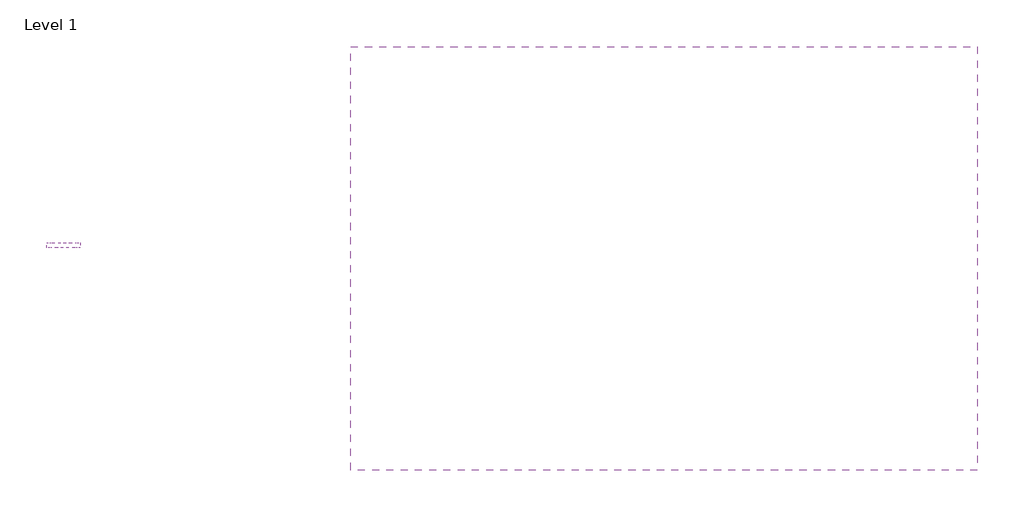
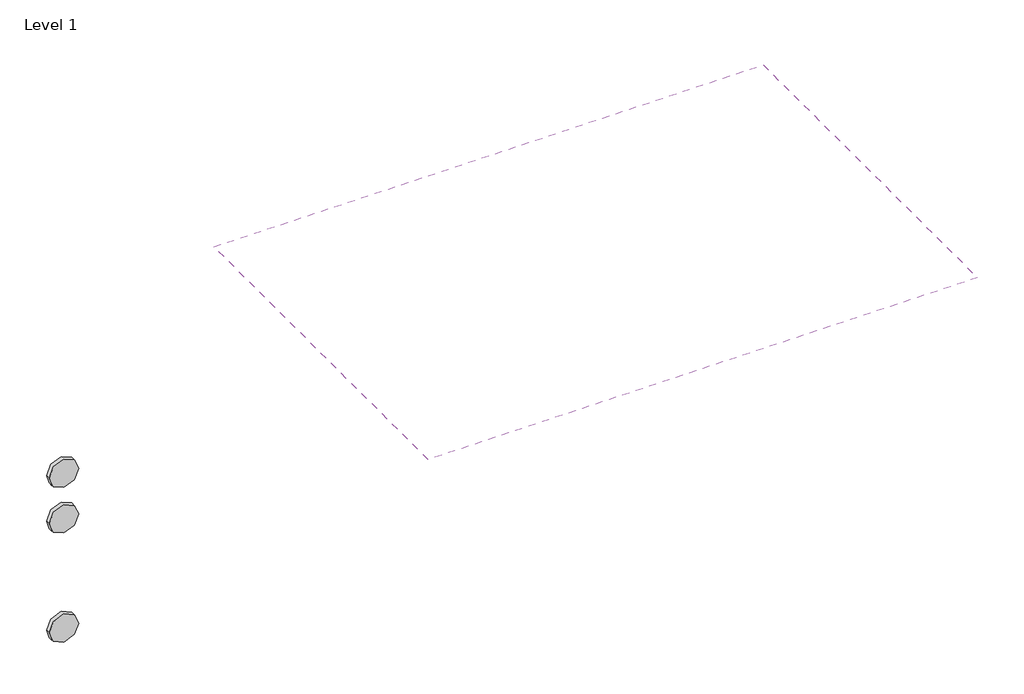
# One storey, incomplete: 3 proxies, 1 covering.
"""IFC4 building model written with IfcOpenShell, lengths in millimetres."""

from ifc_helpers import new_model, si_unit, frame, origin, place, context, project, spatial, polyline, outline, extrude, transform, mapped, element, save
from components import materialmodel_materialmodel_6280714f

model = new_model("IFC4")

# Units and contexts
model_context = context("Model", 3, world=origin())
ifc_project = project(units=[si_unit("LENGTHUNIT", "METRE", prefix="MILLI")], contexts=[model_context])

# Site, building, storey
site = spatial("IfcSite", under=ifc_project)
building = spatial("IfcBuilding", under=site)
storey = spatial("IfcBuildingStorey", under=building, Name="Level 1", Elevation=0.0)

# Proxies
placement = place(None, origin())
materialmodel_materialmodel_shape = materialmodel_materialmodel_6280714f(model_context)
element("IfcBuildingElementProxy", 1, Name="MaterialModel : MaterialModel", ObjectType="MaterialModel : MaterialModel", at=placement, inside=storey, context=model_context, shape_type="MappedRepresentation", body=[
    mapped(materialmodel_materialmodel_shape, transform((-14999.2264414, 6097.5863071, 1364.6338592), x_axis=(1.0, 0.0, 0.0), y_axis=(0.0, 1.0, 0.0), z_axis=(0.0, 0.0, 1.0))),
])
element("IfcBuildingElementProxy", 2, Name="MaterialModel : MaterialModel", ObjectType="MaterialModel : MaterialModel", at=placement, inside=storey, context=model_context, shape_type="MappedRepresentation", body=[
    mapped(materialmodel_materialmodel_shape, transform((-14999.2264414, 6097.5863071, 1805.4161759), x_axis=(1.0, 0.0, 0.0), y_axis=(0.0, 1.0, 0.0), z_axis=(0.0, 0.0, 1.0))),
])
element("IfcBuildingElementProxy", 3, Name="MaterialModel : MaterialModel", ObjectType="MaterialModel : MaterialModel", at=placement, inside=storey, context=model_context, shape_type="MappedRepresentation", body=[
    mapped(materialmodel_materialmodel_shape, transform((-14999.2264414, 6097.5863071, 1675.4161759), x_axis=(1.0, 0.0, 0.0), y_axis=(0.0, 1.0, 0.0), z_axis=(0.0, 0.0, 1.0))),
])

# Covering
element("IfcCovering", 4, ObjectType="600 x 1200mm Grid", at=placement, inside=storey, context=model_context, shape_type="SweptSolid", body=[
    extrude(outline(polyline([(-12840.883584, 6561.1087432), (-12840.883584, 5561.1087432), (-14320.883584, 5561.1087432), (-14320.883584, 6561.1087432), (-12840.883584, 6561.1087432)])), frame((0.0, 0.0, 2000.0), z_axis=(0.0, 0.0, 1.0), x_axis=(1.0, 0.0, 0.0)), (0.0, 0.0, 1.0), 52.0),
])

save(model, "model.ifc")
